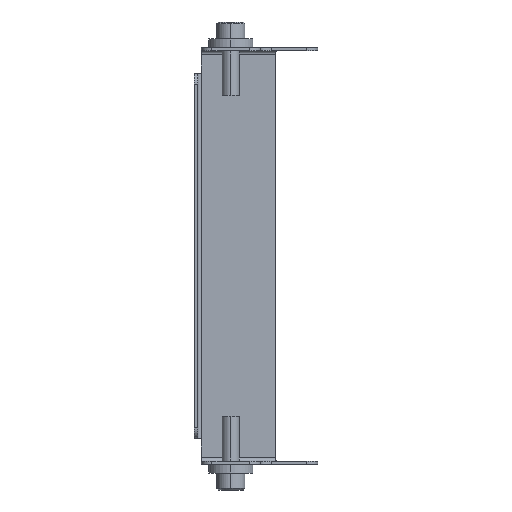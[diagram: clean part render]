
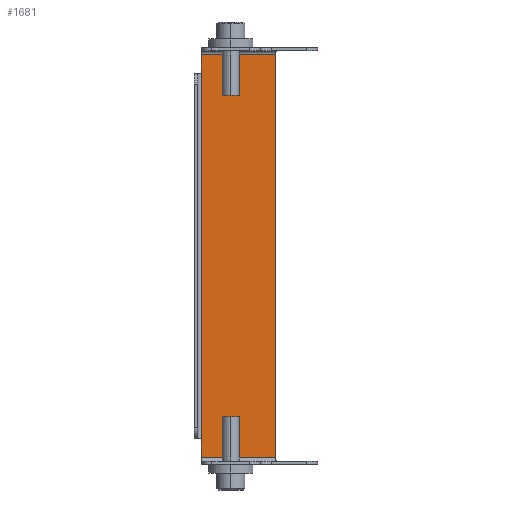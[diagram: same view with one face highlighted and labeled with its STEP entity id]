
A CAD part, left-side view. The second image highlights one B-rep face of the part: STEP entity #1681.
In plain terms, the highlighted planar face has unit normal (-1, 0, 0) as drawn and (0, 0, 1) by its records, which use the part's own axes.
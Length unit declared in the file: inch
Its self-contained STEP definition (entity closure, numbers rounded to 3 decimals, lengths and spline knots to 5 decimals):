
#327=DIRECTION('',(0.,-1.,0.));
#328=VECTOR('',#327,1.03498);
#329=CARTESIAN_POINT('',(2.8095,0.8125,0.));
#330=LINE('',#329,#328);
#335=DIRECTION('',(1.,0.,0.));
#336=VECTOR('',#335,5.619);
#337=CARTESIAN_POINT('',(-2.8095,-0.22248,0.));
#338=LINE('',#337,#336);
#349=CARTESIAN_POINT('',(2.8095,-0.22248,0.));
#721=DIRECTION('',(1.,0.,0.));
#722=VECTOR('',#721,0.2645);
#723=CARTESIAN_POINT('',(2.545,0.8125,0.));
#724=LINE('',#723,#722);
#807=DIRECTION('',(1.,0.,0.));
#808=VECTOR('',#807,5.09);
#809=CARTESIAN_POINT('',(-2.545,0.8125,0.));
#810=LINE('',#809,#808);
#833=DIRECTION('',(1.,0.,0.));
#834=VECTOR('',#833,0.2645);
#835=CARTESIAN_POINT('',(-2.8095,0.8125,0.));
#836=LINE('',#835,#834);
#855=DIRECTION('',(0.,1.,0.));
#856=VECTOR('',#855,1.03498);
#857=CARTESIAN_POINT('',(-2.8095,-0.22248,0.));
#858=LINE('',#857,#856);
#1144=CARTESIAN_POINT('',(2.545,0.8125,0.));
#1146=VERTEX_POINT('',#1144);
#1195=CARTESIAN_POINT('',(-2.8095,-0.22248,0.));
#1196=CARTESIAN_POINT('',(-2.8095,0.8125,0.));
#1197=VERTEX_POINT('',#1195);
#1198=VERTEX_POINT('',#1196);
#1210=VERTEX_POINT('',#349);
#1302=CARTESIAN_POINT('',(2.8095,0.8125,0.));
#1303=VERTEX_POINT('',#1302);
#1364=CARTESIAN_POINT('',(-2.545,0.8125,0.));
#1365=VERTEX_POINT('',#1364);
#1663=CARTESIAN_POINT('',(0.,0.,0.));
#1664=DIRECTION('',(0.,0.,1.));
#1665=DIRECTION('',(1.,0.,0.));
#1666=AXIS2_PLACEMENT_3D('',#1663,#1664,#1665);
#1667=PLANE('',#1666);
#1669=ORIENTED_EDGE('',*,*,#1668,.F.);
#1671=ORIENTED_EDGE('',*,*,#1670,.T.);
#1673=ORIENTED_EDGE('',*,*,#1672,.T.);
#1675=ORIENTED_EDGE('',*,*,#1674,.T.);
#1677=ORIENTED_EDGE('',*,*,#1676,.T.);
#1678=ORIENTED_EDGE('',*,*,#1654,.T.);
#1679=EDGE_LOOP('',(#1669,#1671,#1673,#1675,#1677,#1678));
#1680=FACE_OUTER_BOUND('',#1679,.F.);
#1654=EDGE_CURVE('',#1303,#1210,#330,.T.);
#1668=EDGE_CURVE('',#1197,#1210,#338,.T.);
#1670=EDGE_CURVE('',#1197,#1198,#858,.T.);
#1672=EDGE_CURVE('',#1198,#1365,#836,.T.);
#1674=EDGE_CURVE('',#1365,#1146,#810,.T.);
#1676=EDGE_CURVE('',#1146,#1303,#724,.T.);
#1681=ADVANCED_FACE('',(#1680),#1667,.T.);
